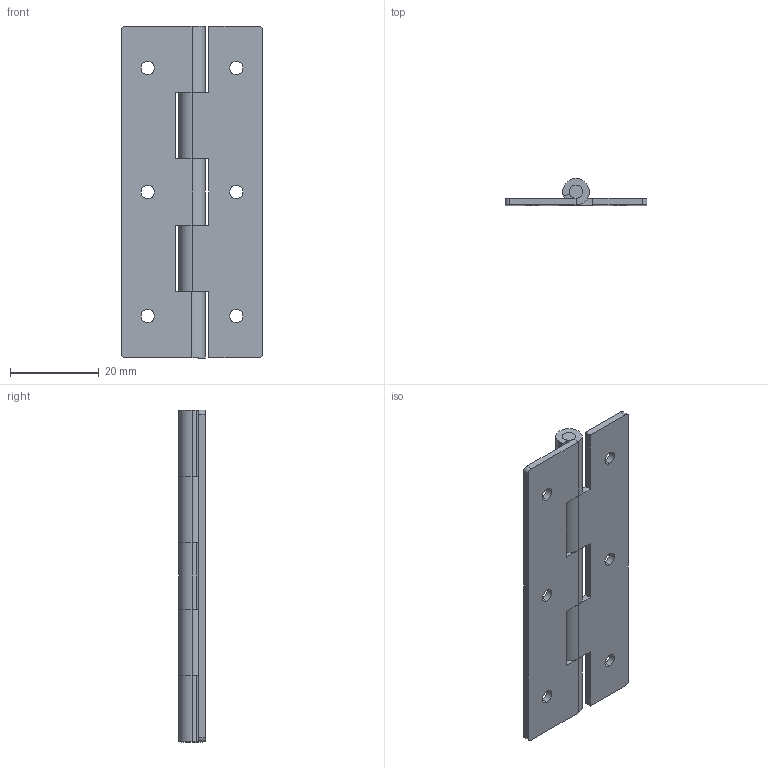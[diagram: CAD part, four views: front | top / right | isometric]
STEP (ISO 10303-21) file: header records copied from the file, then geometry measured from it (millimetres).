
FILE_DESCRIPTION (( 'STEP AP214' ), '1' );
FILE_NAME ('SK2-072-75.STEP', '2020-04-14T02:28:59', ( 'admin' ), ( 'Microsoft' ), 'SwSTEP 2.0', 'SolidWorks 2018', '' );
FILE_SCHEMA (( 'AUTOMOTIVE_DESIGN' ));
Length unit declared in the file: millimetre
Products named in the file (4): SK2-072-75; 2-072-75-F3; 2-072-75-F2; 2-072-75-F1
Assembly tree (3 placements, depth 2):
  SK2-072-75
    2-072-75-F1
    2-072-75-F2
    2-072-75-F3
Bounding box: 32 x 6 x 75 mm (x, y, z)
Volume: 4916.6 mm3; surface area: 7402.5 mm2
Topology: 3 solids, 3 shells, 88 faces, 226 edges, 144 vertices
Faces by surface type: cylinder 48, plane 40
Entity records: 2864 total; most frequent: DIRECTION 510, CARTESIAN_POINT 464, ORIENTED_EDGE 452, EDGE_CURVE 226, AXIS2_PLACEMENT_3D 190, VERTEX_POINT 144, LINE 130, VECTOR 130
